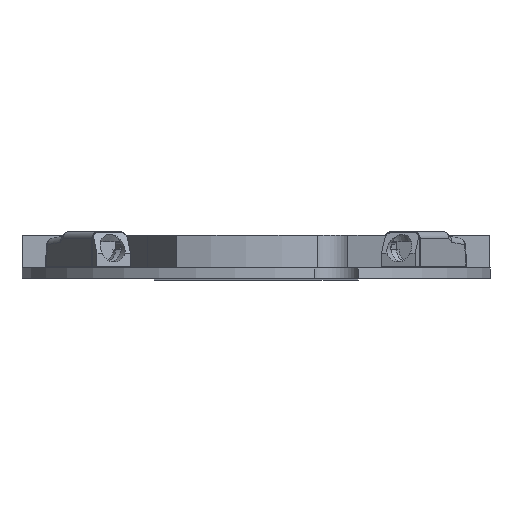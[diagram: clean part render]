
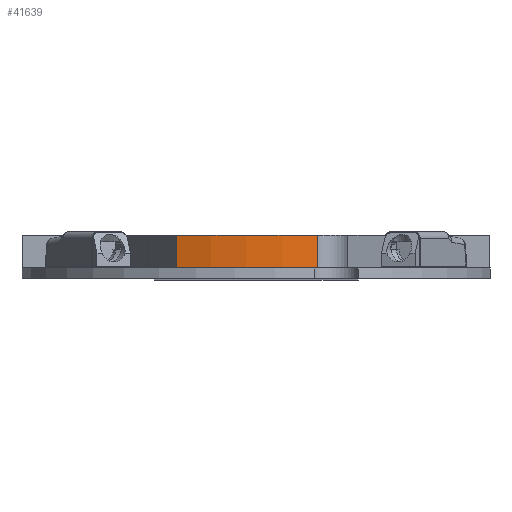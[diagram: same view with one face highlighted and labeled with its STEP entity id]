
A CAD part, front view. The second image highlights one B-rep face of the part: STEP entity #41639.
In plain terms, the highlighted cylindrical face has radius 18.1 mm (diameter 36.2 mm), a partial arc.
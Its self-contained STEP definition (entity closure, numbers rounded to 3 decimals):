
#199 = LINE ( 'NONE', #77629, #55635 ) ;
#585 = ORIENTED_EDGE ( 'NONE', *, *, #55470, .F. ) ;
#1422 = CYLINDRICAL_SURFACE ( 'NONE', #30960, 18.1 ) ;
#4239 = AXIS2_PLACEMENT_3D ( 'NONE', #68782, #29721, #62383 ) ;
#6516 = VERTEX_POINT ( 'NONE', #30145 ) ;
#6613 = DIRECTION ( 'NONE',  ( 0., 0., -1. ) ) ;
#10545 = VERTEX_POINT ( 'NONE', #65082 ) ;
#13648 = DIRECTION ( 'NONE',  ( 0., 0., -1. ) ) ;
#13896 = EDGE_CURVE ( 'NONE', #55444, #36160, #41699, .T. ) ;
#14248 = CARTESIAN_POINT ( 'NONE',  ( 0., 0., 2.525 ) ) ;
#21423 = EDGE_CURVE ( 'NONE', #55444, #6516, #71230, .T. ) ;
#28299 = ORIENTED_EDGE ( 'NONE', *, *, #69409, .F. ) ;
#29721 = DIRECTION ( 'NONE',  ( 0., 0., 1. ) ) ;
#30145 = CARTESIAN_POINT ( 'NONE',  ( 4.686, -17.483, 2.525 ) ) ;
#30960 = AXIS2_PLACEMENT_3D ( 'NONE', #14248, #40356, #54081 ) ;
#32465 = CARTESIAN_POINT ( 'NONE',  ( -6.092, -17.044, 0.07 ) ) ;
#36160 = VERTEX_POINT ( 'NONE', #32465 ) ;
#40356 = DIRECTION ( 'NONE',  ( 0., 0., -1. ) ) ;
#41639 = ADVANCED_FACE ( 'NONE', ( #59690 ), #1422, .T. ) ;
#41699 = LINE ( 'NONE', #54607, #77095 ) ;
#45169 = ORIENTED_EDGE ( 'NONE', *, *, #21423, .F. ) ;
#46055 = EDGE_LOOP ( 'NONE', ( #67904, #28299, #585, #45169 ) ) ;
#54081 = DIRECTION ( 'NONE',  ( -1., 0., 0. ) ) ;
#54607 = CARTESIAN_POINT ( 'NONE',  ( -6.092, -17.044, 2.525 ) ) ;
#55444 = VERTEX_POINT ( 'NONE', #69606 ) ;
#55470 = EDGE_CURVE ( 'NONE', #6516, #10545, #199, .T. ) ;
#55635 = VECTOR ( 'NONE', #6613, 1000. ) ;
#59690 = FACE_OUTER_BOUND ( 'NONE', #46055, .T. ) ;
#62383 = DIRECTION ( 'NONE',  ( 1., 0., 0. ) ) ;
#62717 = DIRECTION ( 'NONE',  ( 0., 0., -1. ) ) ;
#65082 = CARTESIAN_POINT ( 'NONE',  ( 4.686, -17.483, 0.07 ) ) ;
#65904 = DIRECTION ( 'NONE',  ( 1., 0., 0. ) ) ;
#67904 = ORIENTED_EDGE ( 'NONE', *, *, #13896, .T. ) ;
#68782 = CARTESIAN_POINT ( 'NONE',  ( 0., 0., 2.525 ) ) ;
#69409 = EDGE_CURVE ( 'NONE', #10545, #36160, #74075, .T. ) ;
#69606 = CARTESIAN_POINT ( 'NONE',  ( -6.092, -17.044, 2.525 ) ) ;
#71230 = CIRCLE ( 'NONE', #4239, 18.1 ) ;
#72329 = CARTESIAN_POINT ( 'NONE',  ( 0., 0., 0.07 ) ) ;
#74075 = CIRCLE ( 'NONE', #82273, 18.1 ) ;
#77095 = VECTOR ( 'NONE', #62717, 1000. ) ;
#77629 = CARTESIAN_POINT ( 'NONE',  ( 4.686, -17.483, 2.525 ) ) ;
#82273 = AXIS2_PLACEMENT_3D ( 'NONE', #72329, #13648, #65904 ) ;
